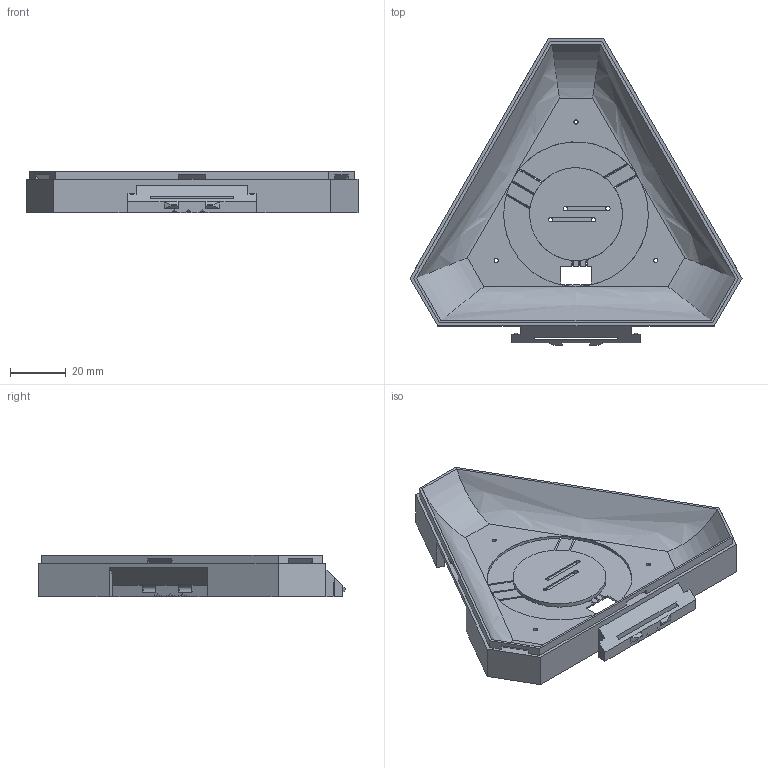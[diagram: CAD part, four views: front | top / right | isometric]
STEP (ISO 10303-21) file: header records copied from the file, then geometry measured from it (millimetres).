
FILE_DESCRIPTION(/* description */ (''),/* implementation_level */ '2;1');
FILE_NAME(/* name */ 'led-tile-base',/* time_stamp */ '2022-10-23T21:45:41+02:00',/* author */ (''),/* organization */ (''),/* preprocessor_version */ 'ST-DEVELOPER v10',/* originating_system */ '',/* authorisation */ '');
FILE_SCHEMA (('CONFIG_CONTROL_DESIGN'));
Length unit declared in the file: millimetre
Products named in the file (1): 1
Bounding box: 118.77 x 109.86 x 15 mm (x, y, z)
Volume: 37257.6 mm3; surface area: 25202.6 mm2
Topology: 1 solids, 1 shells, 374 faces, 1165 edges, 746 vertices
Faces by surface type: plane 203, bspline 171
Entity records: 15240 total; most frequent: CARTESIAN_POINT 8209, ORIENTED_EDGE 2258, EDGE_CURVE 1129, B_SPLINE_CURVE_WITH_KNOTS 937, VERTEX_POINT 746, EDGE_LOOP 391, ADVANCED_FACE 374, FACE_OUTER_BOUND 374
